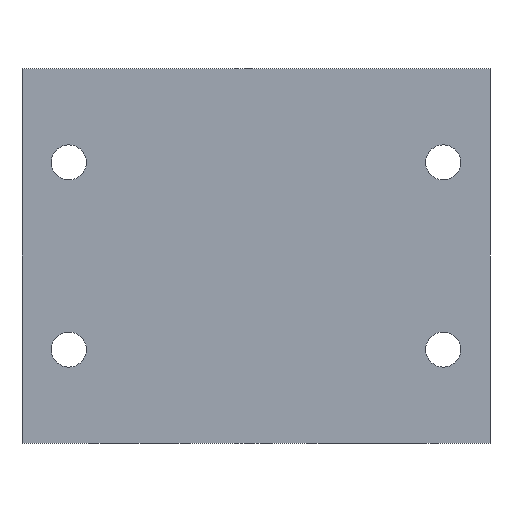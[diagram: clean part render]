
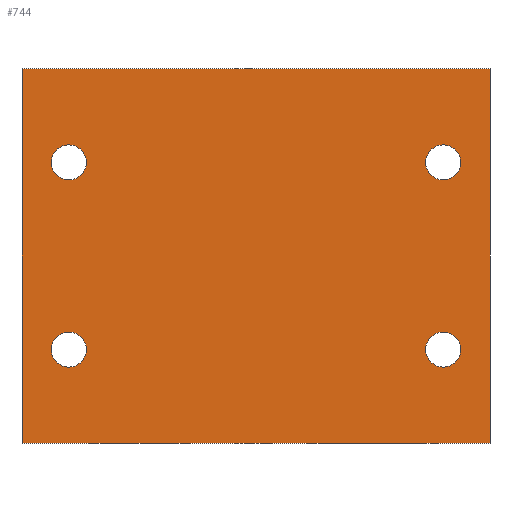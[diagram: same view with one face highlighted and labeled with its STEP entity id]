
A CAD part, front view. The second image highlights one B-rep face of the part: STEP entity #744.
In plain terms, the highlighted planar face has unit normal (0, -1, 0).
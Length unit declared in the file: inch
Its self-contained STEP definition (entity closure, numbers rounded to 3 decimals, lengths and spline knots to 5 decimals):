
#8 = ORIENTED_EDGE ( 'NONE', *, *, #2291, .F. ) ;
#12 = VERTEX_POINT ( 'NONE', #2429 ) ;
#18 = ORIENTED_EDGE ( 'NONE', *, *, #972, .T. ) ;
#23 = CARTESIAN_POINT ( 'NONE',  ( 3.15762, 0., -0.81884 ) ) ;
#32 = LINE ( 'NONE', #633, #600 ) ;
#40 = FACE_BOUND ( 'NONE', #1730, .T. ) ;
#60 = DIRECTION ( 'NONE',  ( 0., 0., 1. ) ) ;
#61 = VERTEX_POINT ( 'NONE', #2270 ) ;
#84 = DIRECTION ( 'NONE',  ( 0., 0., 1. ) ) ;
#109 = CARTESIAN_POINT ( 'NONE',  ( 2.65762, 0., 2.18116 ) ) ;
#135 = VERTEX_POINT ( 'NONE', #23 ) ;
#138 = EDGE_CURVE ( 'NONE', #1243, #2519, #1858, .T. ) ;
#141 = CIRCLE ( 'NONE', #693, 0.1875 ) ;
#226 = DIRECTION ( 'NONE',  ( 1., 0., 0. ) ) ;
#231 = CARTESIAN_POINT ( 'NONE',  ( 2.65762, 0., 0.36866 ) ) ;
#246 = EDGE_CURVE ( 'NONE', #61, #12, #2098, .T. ) ;
#287 = LINE ( 'NONE', #1099, #342 ) ;
#306 = VERTEX_POINT ( 'NONE', #1265 ) ;
#328 = CIRCLE ( 'NONE', #547, 0.1875 ) ;
#342 = VECTOR ( 'NONE', #1892, 39.37008 ) ;
#370 = CARTESIAN_POINT ( 'NONE',  ( -1.34238, 0., 0.36866 ) ) ;
#376 = VERTEX_POINT ( 'NONE', #370 ) ;
#389 = CARTESIAN_POINT ( 'NONE',  ( 2.65762, 0., 0.18116 ) ) ;
#430 = FACE_BOUND ( 'NONE', #1940, .T. ) ;
#440 = DIRECTION ( 'NONE',  ( 0., 0., 1. ) ) ;
#470 = EDGE_CURVE ( 'NONE', #739, #135, #287, .T. ) ;
#511 = ORIENTED_EDGE ( 'NONE', *, *, #246, .T. ) ;
#527 = EDGE_CURVE ( 'NONE', #2523, #1392, #1020, .T. ) ;
#547 = AXIS2_PLACEMENT_3D ( 'NONE', #109, #682, #881 ) ;
#593 = AXIS2_PLACEMENT_3D ( 'NONE', #828, #1412, #1806 ) ;
#600 = VECTOR ( 'NONE', #60, 39.37008 ) ;
#614 = CARTESIAN_POINT ( 'NONE',  ( 3.15762, 0., 3.18116 ) ) ;
#633 = CARTESIAN_POINT ( 'NONE',  ( -1.84238, 0., -0.81884 ) ) ;
#650 = AXIS2_PLACEMENT_3D ( 'NONE', #389, #1193, #1530 ) ;
#655 = LINE ( 'NONE', #2032, #1251 ) ;
#682 = DIRECTION ( 'NONE',  ( 0., 1., 0. ) ) ;
#685 = VERTEX_POINT ( 'NONE', #2596 ) ;
#693 = AXIS2_PLACEMENT_3D ( 'NONE', #819, #1028, #1824 ) ;
#724 = CARTESIAN_POINT ( 'NONE',  ( -1.34238, 0., 0.18116 ) ) ;
#734 = AXIS2_PLACEMENT_3D ( 'NONE', #2070, #1880, #440 ) ;
#739 = VERTEX_POINT ( 'NONE', #614 ) ;
#744 = ADVANCED_FACE ( 'NONE', ( #2210, #40, #2432, #430, #2458 ), #853, .F. ) ;
#778 = EDGE_CURVE ( 'NONE', #306, #739, #655, .T. ) ;
#819 = CARTESIAN_POINT ( 'NONE',  ( -1.34238, 0., 0.18116 ) ) ;
#828 = CARTESIAN_POINT ( 'NONE',  ( -1.34238, 0., 2.18116 ) ) ;
#837 = EDGE_CURVE ( 'NONE', #12, #61, #328, .T. ) ;
#853 = PLANE ( 'NONE',  #1006 ) ;
#881 = DIRECTION ( 'NONE',  ( 0., 0., 1. ) ) ;
#925 = DIRECTION ( 'NONE',  ( 0., 1., 0. ) ) ;
#942 = ORIENTED_EDGE ( 'NONE', *, *, #527, .T. ) ;
#944 = CARTESIAN_POINT ( 'NONE',  ( 2.65762, 0., -0.00634 ) ) ;
#972 = EDGE_CURVE ( 'NONE', #1392, #2523, #1724, .T. ) ;
#1006 = AXIS2_PLACEMENT_3D ( 'NONE', #1625, #2606, #1230 ) ;
#1020 = CIRCLE ( 'NONE', #593, 0.1875 ) ;
#1028 = DIRECTION ( 'NONE',  ( 0., 1., 0. ) ) ;
#1039 = DIRECTION ( 'NONE',  ( -1., 0., 0. ) ) ;
#1063 = LINE ( 'NONE', #1274, #1278 ) ;
#1090 = EDGE_CURVE ( 'NONE', #2519, #1243, #1861, .T. ) ;
#1092 = DIRECTION ( 'NONE',  ( 0., 1., 0. ) ) ;
#1099 = CARTESIAN_POINT ( 'NONE',  ( 3.15762, 0., -0.81884 ) ) ;
#1103 = ORIENTED_EDGE ( 'NONE', *, *, #778, .F. ) ;
#1165 = VERTEX_POINT ( 'NONE', #2139 ) ;
#1193 = DIRECTION ( 'NONE',  ( 0., 1., 0. ) ) ;
#1230 = DIRECTION ( 'NONE',  ( 0., 0., 1. ) ) ;
#1243 = VERTEX_POINT ( 'NONE', #231 ) ;
#1251 = VECTOR ( 'NONE', #226, 39.37008 ) ;
#1255 = ORIENTED_EDGE ( 'NONE', *, *, #138, .T. ) ;
#1265 = CARTESIAN_POINT ( 'NONE',  ( -1.84238, 0., 3.18116 ) ) ;
#1272 = EDGE_CURVE ( 'NONE', #685, #306, #32, .T. ) ;
#1274 = CARTESIAN_POINT ( 'NONE',  ( -1.84238, 0., -0.81884 ) ) ;
#1278 = VECTOR ( 'NONE', #1039, 39.37008 ) ;
#1302 = ORIENTED_EDGE ( 'NONE', *, *, #837, .T. ) ;
#1341 = ORIENTED_EDGE ( 'NONE', *, *, #1090, .T. ) ;
#1355 = ORIENTED_EDGE ( 'NONE', *, *, #1272, .F. ) ;
#1392 = VERTEX_POINT ( 'NONE', #2296 ) ;
#1412 = DIRECTION ( 'NONE',  ( 0., 1., 0. ) ) ;
#1419 = CARTESIAN_POINT ( 'NONE',  ( 2.65762, 0., 2.18116 ) ) ;
#1476 = DIRECTION ( 'NONE',  ( 0., 1., 0. ) ) ;
#1494 = EDGE_LOOP ( 'NONE', ( #942, #18 ) ) ;
#1499 = EDGE_LOOP ( 'NONE', ( #1355, #8, #2077, #1103 ) ) ;
#1509 = ORIENTED_EDGE ( 'NONE', *, *, #1923, .T. ) ;
#1526 = CARTESIAN_POINT ( 'NONE',  ( -1.34238, 0., 2.36866 ) ) ;
#1530 = DIRECTION ( 'NONE',  ( 0., 0., 1. ) ) ;
#1608 = AXIS2_PLACEMENT_3D ( 'NONE', #724, #925, #1957 ) ;
#1625 = CARTESIAN_POINT ( 'NONE',  ( 0., 0., 0. ) ) ;
#1724 = CIRCLE ( 'NONE', #2190, 0.1875 ) ;
#1730 = EDGE_LOOP ( 'NONE', ( #1255, #1341 ) ) ;
#1745 = ORIENTED_EDGE ( 'NONE', *, *, #2232, .T. ) ;
#1764 = AXIS2_PLACEMENT_3D ( 'NONE', #1419, #1476, #2438 ) ;
#1806 = DIRECTION ( 'NONE',  ( 0., 0., 1. ) ) ;
#1824 = DIRECTION ( 'NONE',  ( 0., 0., 1. ) ) ;
#1858 = CIRCLE ( 'NONE', #734, 0.1875 ) ;
#1861 = CIRCLE ( 'NONE', #650, 0.1875 ) ;
#1880 = DIRECTION ( 'NONE',  ( 0., 1., 0. ) ) ;
#1892 = DIRECTION ( 'NONE',  ( 0., 0., -1. ) ) ;
#1923 = EDGE_CURVE ( 'NONE', #1165, #376, #2068, .T. ) ;
#1940 = EDGE_LOOP ( 'NONE', ( #511, #1302 ) ) ;
#1957 = DIRECTION ( 'NONE',  ( 0., 0., 1. ) ) ;
#2032 = CARTESIAN_POINT ( 'NONE',  ( -1.84238, 0., 3.18116 ) ) ;
#2068 = CIRCLE ( 'NONE', #1608, 0.1875 ) ;
#2070 = CARTESIAN_POINT ( 'NONE',  ( 2.65762, 0., 0.18116 ) ) ;
#2077 = ORIENTED_EDGE ( 'NONE', *, *, #470, .F. ) ;
#2086 = CARTESIAN_POINT ( 'NONE',  ( -1.34238, 0., 2.18116 ) ) ;
#2098 = CIRCLE ( 'NONE', #1764, 0.1875 ) ;
#2139 = CARTESIAN_POINT ( 'NONE',  ( -1.34238, 0., -0.00634 ) ) ;
#2190 = AXIS2_PLACEMENT_3D ( 'NONE', #2086, #1092, #84 ) ;
#2210 = FACE_BOUND ( 'NONE', #2398, .T. ) ;
#2232 = EDGE_CURVE ( 'NONE', #376, #1165, #141, .T. ) ;
#2270 = CARTESIAN_POINT ( 'NONE',  ( 2.65762, 0., 2.36866 ) ) ;
#2291 = EDGE_CURVE ( 'NONE', #135, #685, #1063, .T. ) ;
#2296 = CARTESIAN_POINT ( 'NONE',  ( -1.34238, 0., 1.99366 ) ) ;
#2398 = EDGE_LOOP ( 'NONE', ( #1745, #1509 ) ) ;
#2429 = CARTESIAN_POINT ( 'NONE',  ( 2.65762, 0., 1.99366 ) ) ;
#2432 = FACE_BOUND ( 'NONE', #1494, .T. ) ;
#2438 = DIRECTION ( 'NONE',  ( 0., 0., 1. ) ) ;
#2458 = FACE_OUTER_BOUND ( 'NONE', #1499, .T. ) ;
#2519 = VERTEX_POINT ( 'NONE', #944 ) ;
#2523 = VERTEX_POINT ( 'NONE', #1526 ) ;
#2596 = CARTESIAN_POINT ( 'NONE',  ( -1.84238, 0., -0.81884 ) ) ;
#2606 = DIRECTION ( 'NONE',  ( 0., 1., 0. ) ) ;
